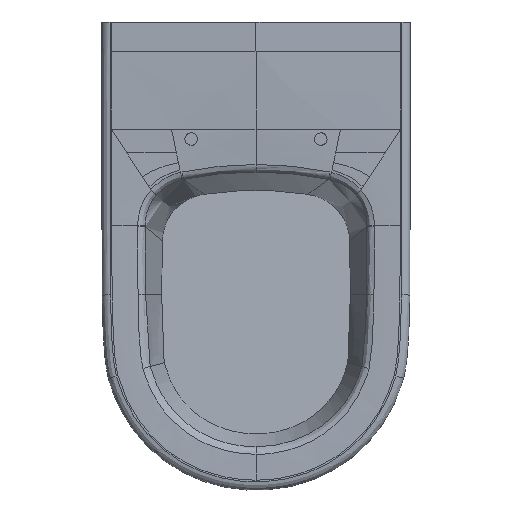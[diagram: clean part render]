
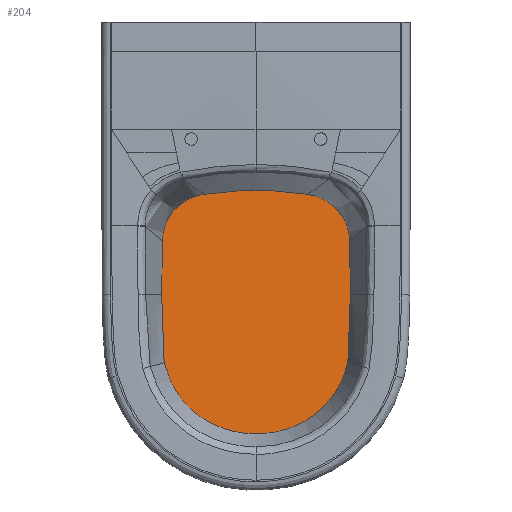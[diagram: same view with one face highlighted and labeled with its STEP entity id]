
A CAD part, top view. The second image highlights one B-rep face of the part: STEP entity #204.
In plain terms, the highlighted planar face has unit normal (0, 0.071, 0.997).
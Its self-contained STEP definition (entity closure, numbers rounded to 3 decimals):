
#115=PLANE('',#1141);
#138=FACE_OUTER_BOUND('',#315,.T.);
#204=ADVANCED_FACE('',(#138),#115,.T.);
#315=EDGE_LOOP('',(#475,#476,#477,#478,#479,#480,#481,#482));
#475=ORIENTED_EDGE('',*,*,#885,.T.);
#476=ORIENTED_EDGE('',*,*,#886,.T.);
#477=ORIENTED_EDGE('',*,*,#887,.T.);
#478=ORIENTED_EDGE('',*,*,#888,.F.);
#479=ORIENTED_EDGE('',*,*,#889,.F.);
#480=ORIENTED_EDGE('',*,*,#890,.F.);
#481=ORIENTED_EDGE('',*,*,#891,.F.);
#482=ORIENTED_EDGE('',*,*,#892,.F.);
#758=VERTEX_POINT('',#5350);
#759=VERTEX_POINT('',#5351);
#760=VERTEX_POINT('',#5364);
#761=VERTEX_POINT('',#5397);
#762=VERTEX_POINT('',#5410);
#763=VERTEX_POINT('',#5415);
#764=VERTEX_POINT('',#5426);
#765=VERTEX_POINT('',#5431);
#885=EDGE_CURVE('',#758,#759,#1040,.T.);
#886=EDGE_CURVE('',#759,#760,#1041,.T.);
#887=EDGE_CURVE('',#760,#761,#1042,.T.);
#888=EDGE_CURVE('',#762,#761,#1043,.T.);
#889=EDGE_CURVE('',#763,#762,#1044,.T.);
#890=EDGE_CURVE('',#764,#763,#1045,.T.);
#891=EDGE_CURVE('',#765,#764,#1046,.T.);
#892=EDGE_CURVE('',#758,#765,#1047,.T.);
#1040=B_SPLINE_CURVE_WITH_KNOTS('',3,(#5346,#5347,#5348,#5349),
 .UNSPECIFIED.,.F.,.F.,(4,4),(0.,1.),.UNSPECIFIED.);
#1041=B_SPLINE_CURVE_WITH_KNOTS('',3,(#5352,#5353,#5354,#5355,#5356,#5357,
#5358,#5359,#5360,#5361,#5362,#5363),.UNSPECIFIED.,.F.,.F.,(4,2,2,2,2,4),
(0.,0.5,0.75,0.875,0.938,
1.),.UNSPECIFIED.);
#1042=B_SPLINE_CURVE_WITH_KNOTS('',3,(#5365,#5366,#5367,#5368,#5369,#5370,
#5371,#5372,#5373,#5374,#5375,#5376,#5377,#5378,#5379,#5380,#5381,#5382,
#5383,#5384,#5385,#5386,#5387,#5388,#5389,#5390,#5391,#5392,#5393,#5394,
#5395,#5396),.UNSPECIFIED.,.F.,.F.,(4,2,2,2,2,2,2,2,2,2,2,2,2,2,2,4),(0.,
0.125,0.188,0.25,0.313,0.375,0.438,0.5,0.563,0.625,0.688,0.75,0.813,
0.875,0.938,1.),.UNSPECIFIED.);
#1043=B_SPLINE_CURVE_WITH_KNOTS('',3,(#5398,#5399,#5400,#5401,#5402,#5403,
#5404,#5405,#5406,#5407,#5408,#5409),.UNSPECIFIED.,.F.,.F.,(4,2,2,2,2,4),
(0.,0.5,0.75,0.875,0.938,1.),.UNSPECIFIED.);
#1044=B_SPLINE_CURVE_WITH_KNOTS('',3,(#5411,#5412,#5413,#5414),
 .UNSPECIFIED.,.F.,.F.,(4,4),(0.,1.),.UNSPECIFIED.);
#1045=B_SPLINE_CURVE_WITH_KNOTS('',3,(#5416,#5417,#5418,#5419,#5420,#5421,
#5422,#5423,#5424,#5425),.UNSPECIFIED.,.F.,.F.,(4,2,2,2,4),(0.,0.25,0.5,
0.75,1.),.UNSPECIFIED.);
#1046=B_SPLINE_CURVE_WITH_KNOTS('',3,(#5427,#5428,#5429,#5430),
 .UNSPECIFIED.,.F.,.F.,(4,4),(0.,1.),.UNSPECIFIED.);
#1047=B_SPLINE_CURVE_WITH_KNOTS('',3,(#5432,#5433,#5434,#5435,#5436,#5437,
#5438,#5439,#5440,#5441,#5442,#5443,#5444,#5445),.UNSPECIFIED.,.F.,.F.,
(4,2,2,2,2,2,4),(0.,0.25,0.375,0.5,0.625,0.75,1.),.UNSPECIFIED.);
#1141=AXIS2_PLACEMENT_3D('',#5446,#1188,#1189);
#1188=DIRECTION('',(0.,0.071,0.997));
#1189=DIRECTION('',(0.,0.997,-0.071));
#5346=CARTESIAN_POINT('',(-111.972,-261.957,-74.894));
#5347=CARTESIAN_POINT('',(-112.299,-283.242,-73.369));
#5348=CARTESIAN_POINT('',(-112.593,-304.529,-71.843));
#5349=CARTESIAN_POINT('',(-112.854,-325.816,-70.318));
#5350=CARTESIAN_POINT('',(-111.972,-261.957,-74.894));
#5351=CARTESIAN_POINT('',(-112.854,-325.816,-70.318));
#5352=CARTESIAN_POINT('',(-112.854,-325.816,-70.318));
#5353=CARTESIAN_POINT('',(-113.021,-339.423,-69.343));
#5354=CARTESIAN_POINT('',(-113.07,-353.032,-68.368));
#5355=CARTESIAN_POINT('',(-112.677,-373.44,-66.905));
#5356=CARTESIAN_POINT('',(-112.469,-380.239,-66.418));
#5357=CARTESIAN_POINT('',(-111.9,-390.417,-65.689));
#5358=CARTESIAN_POINT('',(-111.666,-393.806,-65.446));
#5359=CARTESIAN_POINT('',(-111.178,-398.88,-65.083));
#5360=CARTESIAN_POINT('',(-110.992,-400.569,-64.961));
#5361=CARTESIAN_POINT('',(-110.532,-403.942,-64.72));
#5362=CARTESIAN_POINT('',(-110.287,-405.627,-64.599));
#5363=CARTESIAN_POINT('',(-109.857,-407.298,-64.479));
#5364=CARTESIAN_POINT('',(-109.857,-407.298,-64.479));
#5365=CARTESIAN_POINT('',(-109.857,-407.298,-64.479));
#5366=CARTESIAN_POINT('',(-106.715,-419.497,-63.605));
#5367=CARTESIAN_POINT('',(-102.043,-430.987,-62.782));
#5368=CARTESIAN_POINT('',(-92.136,-446.879,-61.643));
#5369=CARTESIAN_POINT('',(-88.304,-451.981,-61.278));
#5370=CARTESIAN_POINT('',(-79.934,-461.235,-60.614));
#5371=CARTESIAN_POINT('',(-75.369,-465.447,-60.313));
#5372=CARTESIAN_POINT('',(-65.492,-473.05,-59.768));
#5373=CARTESIAN_POINT('',(-60.12,-476.469,-59.523));
#5374=CARTESIAN_POINT('',(-48.979,-482.273,-59.107));
#5375=CARTESIAN_POINT('',(-43.206,-484.678,-58.935));
#5376=CARTESIAN_POINT('',(-31.277,-488.554,-58.657));
#5377=CARTESIAN_POINT('',(-25.081,-490.024,-58.552));
#5378=CARTESIAN_POINT('',(-12.689,-491.963,-58.413));
#5379=CARTESIAN_POINT('',(-6.455,-492.448,-58.378));
#5380=CARTESIAN_POINT('',(6.084,-492.467,-58.377));
#5381=CARTESIAN_POINT('',(12.434,-491.988,-58.411));
#5382=CARTESIAN_POINT('',(24.82,-490.079,-58.548));
#5383=CARTESIAN_POINT('',(30.891,-488.655,-58.65));
#5384=CARTESIAN_POINT('',(42.785,-484.838,-58.923));
#5385=CARTESIAN_POINT('',(48.665,-482.414,-59.097));
#5386=CARTESIAN_POINT('',(59.824,-476.645,-59.51));
#5387=CARTESIAN_POINT('',(65.092,-473.32,-59.749));
#5388=CARTESIAN_POINT('',(74.995,-465.77,-60.29));
#5389=CARTESIAN_POINT('',(79.664,-461.504,-60.595));
#5390=CARTESIAN_POINT('',(88.146,-452.185,-61.263));
#5391=CARTESIAN_POINT('',(91.909,-447.2,-61.62));
#5392=CARTESIAN_POINT('',(98.551,-436.629,-62.378));
#5393=CARTESIAN_POINT('',(101.444,-431.004,-62.781));
#5394=CARTESIAN_POINT('',(106.309,-419.384,-63.613));
#5395=CARTESIAN_POINT('',(108.282,-413.411,-64.041));
#5396=CARTESIAN_POINT('',(109.857,-407.298,-64.479));
#5397=CARTESIAN_POINT('',(109.857,-407.298,-64.479));
#5398=CARTESIAN_POINT('',(112.854,-325.816,-70.318));
#5399=CARTESIAN_POINT('',(113.021,-339.423,-69.343));
#5400=CARTESIAN_POINT('',(113.07,-353.032,-68.368));
#5401=CARTESIAN_POINT('',(112.677,-373.44,-66.905));
#5402=CARTESIAN_POINT('',(112.469,-380.239,-66.418));
#5403=CARTESIAN_POINT('',(111.9,-390.417,-65.689));
#5404=CARTESIAN_POINT('',(111.666,-393.806,-65.446));
#5405=CARTESIAN_POINT('',(111.178,-398.88,-65.083));
#5406=CARTESIAN_POINT('',(110.992,-400.569,-64.961));
#5407=CARTESIAN_POINT('',(110.532,-403.942,-64.72));
#5408=CARTESIAN_POINT('',(110.287,-405.627,-64.599));
#5409=CARTESIAN_POINT('',(109.857,-407.298,-64.479));
#5410=CARTESIAN_POINT('',(112.854,-325.816,-70.318));
#5411=CARTESIAN_POINT('',(111.972,-261.957,-74.894));
#5412=CARTESIAN_POINT('',(112.299,-283.242,-73.369));
#5413=CARTESIAN_POINT('',(112.593,-304.529,-71.843));
#5414=CARTESIAN_POINT('',(112.854,-325.816,-70.318));
#5415=CARTESIAN_POINT('',(111.972,-261.957,-74.894));
#5416=CARTESIAN_POINT('',(62.04,-205.915,-78.909));
#5417=CARTESIAN_POINT('',(68.846,-206.934,-78.836));
#5418=CARTESIAN_POINT('',(75.315,-209.02,-78.687));
#5419=CARTESIAN_POINT('',(87.483,-215.43,-78.228));
#5420=CARTESIAN_POINT('',(92.858,-219.586,-77.93));
#5421=CARTESIAN_POINT('',(102.042,-229.802,-77.198));
#5422=CARTESIAN_POINT('',(105.616,-235.618,-76.781));
#5423=CARTESIAN_POINT('',(110.575,-248.382,-75.866));
#5424=CARTESIAN_POINT('',(111.866,-255.089,-75.386));
#5425=CARTESIAN_POINT('',(111.972,-261.957,-74.894));
#5426=CARTESIAN_POINT('',(62.04,-205.915,-78.91));
#5427=CARTESIAN_POINT('',(-62.04,-205.915,-78.909));
#5428=CARTESIAN_POINT('',(-20.68,-199.723,-79.353));
#5429=CARTESIAN_POINT('',(20.68,-199.723,-79.353));
#5430=CARTESIAN_POINT('',(62.04,-205.915,-78.909));
#5431=CARTESIAN_POINT('',(-62.04,-205.915,-78.91));
#5432=CARTESIAN_POINT('',(-111.972,-261.957,-74.894));
#5433=CARTESIAN_POINT('',(-111.866,-255.093,-75.386));
#5434=CARTESIAN_POINT('',(-110.581,-248.404,-75.865));
#5435=CARTESIAN_POINT('',(-106.865,-238.829,-76.551));
#5436=CARTESIAN_POINT('',(-105.356,-235.792,-76.769));
#5437=CARTESIAN_POINT('',(-101.812,-230.019,-77.182));
#5438=CARTESIAN_POINT('',(-99.755,-227.261,-77.38));
#5439=CARTESIAN_POINT('',(-95.188,-222.175,-77.744));
#5440=CARTESIAN_POINT('',(-92.702,-219.866,-77.91));
#5441=CARTESIAN_POINT('',(-87.341,-215.698,-78.208));
#5442=CARTESIAN_POINT('',(-84.435,-213.826,-78.343));
#5443=CARTESIAN_POINT('',(-75.381,-209.052,-78.685));
#5444=CARTESIAN_POINT('',(-68.843,-206.934,-78.836));
#5445=CARTESIAN_POINT('',(-62.04,-205.915,-78.909));
#5446=CARTESIAN_POINT('',(-112.438,-293.886,-72.606));
